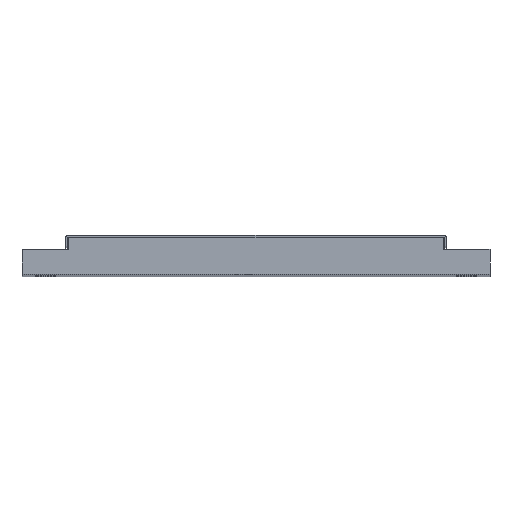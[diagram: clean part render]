
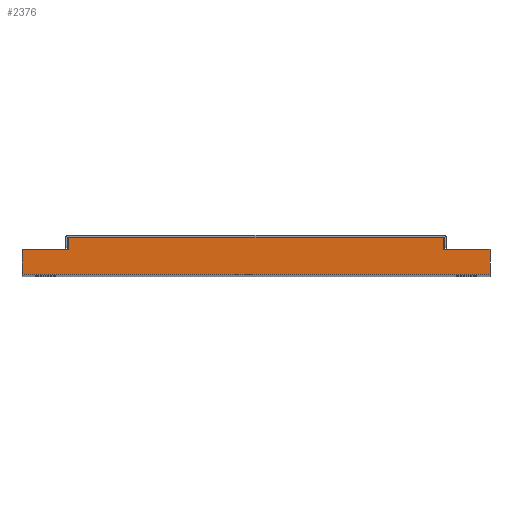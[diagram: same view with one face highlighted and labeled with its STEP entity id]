
A CAD part, top view. The second image highlights one B-rep face of the part: STEP entity #2376.
In plain terms, the highlighted planar face has unit normal (0, 0, 1).
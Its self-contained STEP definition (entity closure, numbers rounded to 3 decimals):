
#546 = DIRECTION ( 'NONE',  ( 0., 1., 0. ) ) ;
#547 = VECTOR ( 'NONE', #546, 1000. ) ;
#548 = CARTESIAN_POINT ( 'NONE',  ( 150., 0., 0. ) ) ;
#549 = LINE ( 'NONE', #548, #547 ) ;
#566 = CARTESIAN_POINT ( 'NONE',  ( 150., 0., 0. ) ) ;
#567 = DIRECTION ( 'NONE',  ( 1., 0., 0. ) ) ;
#579 = VECTOR ( 'NONE', #567, 1000. ) ;
#580 = CARTESIAN_POINT ( 'NONE',  ( 0., 0., 0. ) ) ;
#586 = LINE ( 'NONE', #580, #579 ) ;
#587 = CARTESIAN_POINT ( 'NONE',  ( 0., 0., 0. ) ) ;
#694 = DIRECTION ( 'NONE',  ( 1., 0., 0. ) ) ;
#695 = DIRECTION ( 'NONE',  ( 0., 0., 1. ) ) ;
#696 = CARTESIAN_POINT ( 'NONE',  ( 0., 0., 0. ) ) ;
#697 = AXIS2_PLACEMENT_3D ( 'NONE', #696, #695, #694 ) ;
#698 = PLANE ( 'NONE',  #697 ) ;
#700 = CARTESIAN_POINT ( 'NONE',  ( 15., 8., 0. ) ) ;
#725 = CARTESIAN_POINT ( 'NONE',  ( 0., 8., 0. ) ) ;
#726 = DIRECTION ( 'NONE',  ( 0., -1., 0. ) ) ;
#727 = VECTOR ( 'NONE', #726, 1000. ) ;
#728 = CARTESIAN_POINT ( 'NONE',  ( 0., 8., 0. ) ) ;
#749 = FACE_OUTER_BOUND ( 'NONE', #2377, .T. ) ;
#796 = LINE ( 'NONE', #728, #727 ) ;
#819 = CARTESIAN_POINT ( 'NONE',  ( 135., 12., 0. ) ) ;
#820 = DIRECTION ( 'NONE',  ( -1., 0., 0. ) ) ;
#825 = VECTOR ( 'NONE', #820, 1000. ) ;
#826 = CARTESIAN_POINT ( 'NONE',  ( 135., 12., 0. ) ) ;
#830 = CARTESIAN_POINT ( 'NONE',  ( 150., 8., 0. ) ) ;
#831 = DIRECTION ( 'NONE',  ( -1., 0., 0. ) ) ;
#832 = VECTOR ( 'NONE', #831, 1000. ) ;
#833 = CARTESIAN_POINT ( 'NONE',  ( 150., 8., 0. ) ) ;
#834 = LINE ( 'NONE', #833, #832 ) ;
#870 = LINE ( 'NONE', #826, #825 ) ;
#906 = CARTESIAN_POINT ( 'NONE',  ( 135., 8., 0. ) ) ;
#907 = CARTESIAN_POINT ( 'NONE',  ( 15., 12., 0. ) ) ;
#908 = DIRECTION ( 'NONE',  ( 0., -1., 0. ) ) ;
#909 = VECTOR ( 'NONE', #908, 1000. ) ;
#922 = CARTESIAN_POINT ( 'NONE',  ( 15., 12., 0. ) ) ;
#923 = LINE ( 'NONE', #922, #909 ) ;
#932 = DIRECTION ( 'NONE',  ( 0., 1., 0. ) ) ;
#933 = VECTOR ( 'NONE', #932, 1000. ) ;
#934 = CARTESIAN_POINT ( 'NONE',  ( 135., 8., 0. ) ) ;
#935 = LINE ( 'NONE', #934, #933 ) ;
#966 = DIRECTION ( 'NONE',  ( -1., 0., 0. ) ) ;
#967 = VECTOR ( 'NONE', #966, 1000. ) ;
#968 = CARTESIAN_POINT ( 'NONE',  ( 15., 8., 0. ) ) ;
#969 = LINE ( 'NONE', #968, #967 ) ;
#2221 = EDGE_CURVE ( 'NONE', #2224, #2226, #586, .T. ) ;
#2224 = VERTEX_POINT ( 'NONE', #587 ) ;
#2226 = VERTEX_POINT ( 'NONE', #566 ) ;
#2274 = EDGE_CURVE ( 'NONE', #2226, #2462, #549, .T. ) ;
#2317 = VERTEX_POINT ( 'NONE', #700 ) ;
#2365 = ORIENTED_EDGE ( 'NONE', *, *, #2491, .T. ) ;
#2376 = ADVANCED_FACE ( 'NONE', ( #749 ), #698, .T. ) ;
#2377 = EDGE_LOOP ( 'NONE', ( #2378, #2379, #2380, #2381, #2382, #2438, #2428, #2365 ) ) ;
#2378 = ORIENTED_EDGE ( 'NONE', *, *, #2391, .T. ) ;
#2379 = ORIENTED_EDGE ( 'NONE', *, *, #2221, .T. ) ;
#2380 = ORIENTED_EDGE ( 'NONE', *, *, #2274, .T. ) ;
#2381 = ORIENTED_EDGE ( 'NONE', *, *, #2461, .T. ) ;
#2382 = ORIENTED_EDGE ( 'NONE', *, *, #2479, .T. ) ;
#2391 = EDGE_CURVE ( 'NONE', #2392, #2224, #796, .T. ) ;
#2392 = VERTEX_POINT ( 'NONE', #725 ) ;
#2428 = ORIENTED_EDGE ( 'NONE', *, *, #2466, .T. ) ;
#2438 = ORIENTED_EDGE ( 'NONE', *, *, #2452, .T. ) ;
#2452 = EDGE_CURVE ( 'NONE', #2453, #2467, #870, .T. ) ;
#2453 = VERTEX_POINT ( 'NONE', #819 ) ;
#2461 = EDGE_CURVE ( 'NONE', #2462, #2480, #834, .T. ) ;
#2462 = VERTEX_POINT ( 'NONE', #830 ) ;
#2466 = EDGE_CURVE ( 'NONE', #2467, #2317, #923, .T. ) ;
#2467 = VERTEX_POINT ( 'NONE', #907 ) ;
#2479 = EDGE_CURVE ( 'NONE', #2480, #2453, #935, .T. ) ;
#2480 = VERTEX_POINT ( 'NONE', #906 ) ;
#2491 = EDGE_CURVE ( 'NONE', #2317, #2392, #969, .T. ) ;
